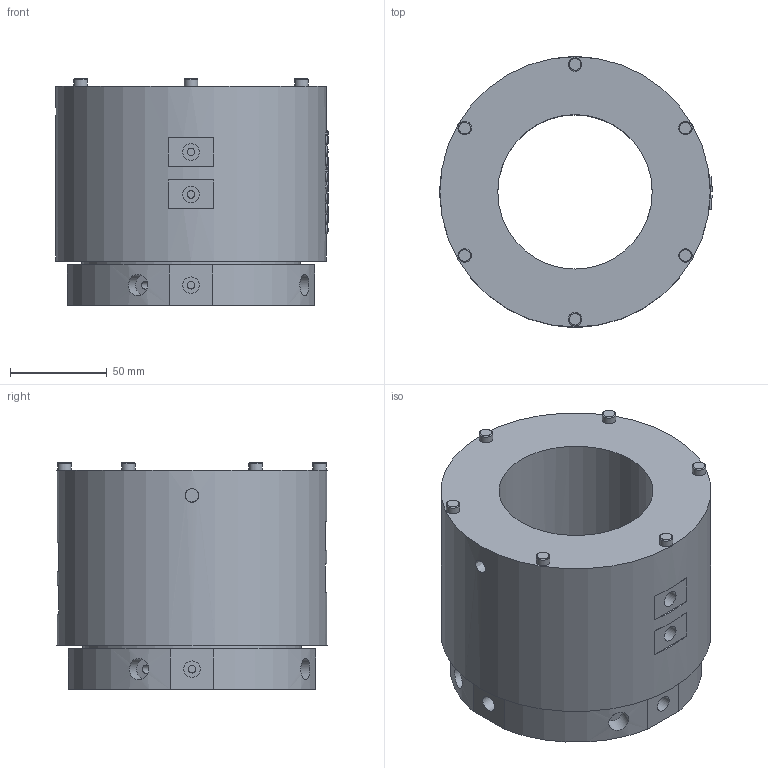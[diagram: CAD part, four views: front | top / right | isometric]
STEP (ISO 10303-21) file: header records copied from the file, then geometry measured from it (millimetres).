
FILE_DESCRIPTION(/* description */ (''),/* implementation_level */ '2;1');
FILE_NAME(/* name */ 'HQ0401D80.stp',/* time_stamp */ '2024-07-16T13:39:15+08:00',/* author */ (''),/* organization */ (''),/* preprocessor_version */ 'ST-DEVELOPER v16.7',/* originating_system */ 'SIEMENS PLM Software NX 12.0',/* authorisation */ '');
FILE_SCHEMA (('AUTOMOTIVE_DESIGN { 1 0 10303 214 3 1 1 1 }'));
Length unit declared in the file: millimetre
Products named in the file (1): 861334F88FD9p2su
Bounding box: 141 x 140 x 117.5 mm (x, y, z)
Volume: 1108528.8 mm3; surface area: 112499 mm2
Topology: 1 solids, 1 shells, 432 faces, 1034 edges, 687 vertices
Faces by surface type: plane 180, extrusion 159, cylinder 60, bspline 27, torus 6
Full cylindrical faces by diameter (mm): 4 x12, 4.2 x5, 4.325 x3, 6.8 x4, 7 x6, 8.5 x8, 11 x1, 11.125 x3, 80 x1, 113 x1, 140 x1
Entity records: 18789 total; most frequent: CARTESIAN_POINT 9600, ORIENTED_EDGE 1940, DIRECTION 1406, EDGE_CURVE 970, VERTEX_POINT 683, EDGE_LOOP 585, VECTOR 562, B_SPLINE_CURVE_WITH_KNOTS 552
